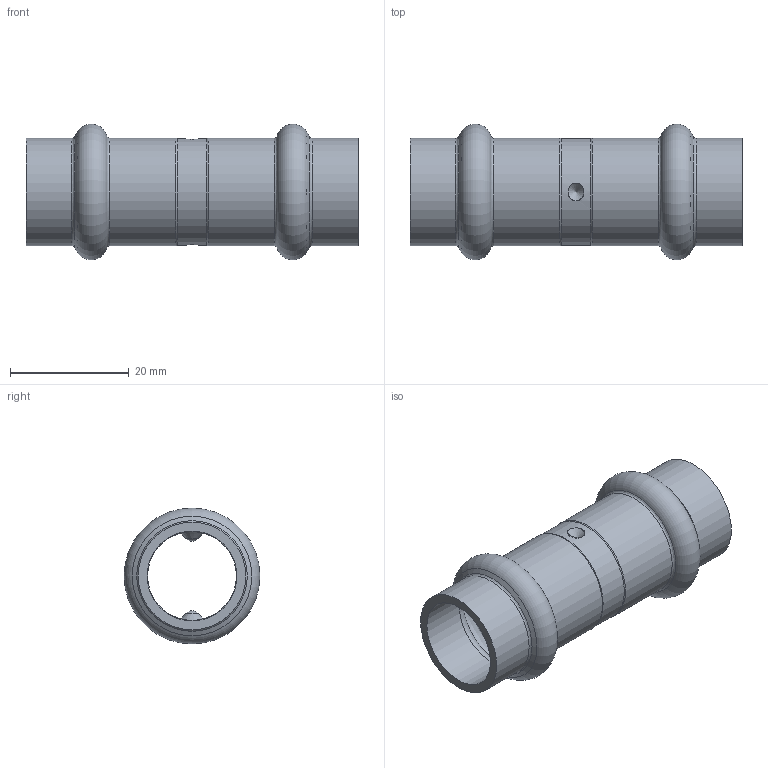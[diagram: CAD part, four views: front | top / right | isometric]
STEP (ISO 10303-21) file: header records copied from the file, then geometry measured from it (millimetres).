
FILE_DESCRIPTION((''),'2;1');
FILE_NAME('G:\Nirosan-Schmiedefeld\Technics\CAD\Bauteile VA\015\6927015(1).stp','2011-10-26T11:56:19',('herberg'),(''),'Autodesk Inventor 2009','Autodesk Inventor 2009','');
FILE_SCHEMA(('AUTOMOTIVE_DESIGN { 1 0 10303 214 1 1 1 1 }'));
Length unit declared in the file: millimetre
Products named in the file (1): 6927015(1)
Bounding box: 56 x 22.9 x 22.9 mm (x, y, z)
Volume: 4938.4 mm3; surface area: 6743.7 mm2
Topology: 1 solids, 1 shells, 42 faces, 88 edges, 48 vertices
Faces by surface type: cone 16, cylinder 10, bspline 6, torus 6, sphere 2, plane 2
Full cylindrical faces by diameter (mm): 15 x1, 15.15 x4, 18 x1, 18.15 x4
Entity records: 1397 total; most frequent: CARTESIAN_POINT 688, DIRECTION 150, ORIENTED_EDGE 88, EDGE_LOOP 80, AXIS2_PLACEMENT_3D 75, EDGE_CURVE 44, FACE_OUTER_BOUND 42, ADVANCED_FACE 42
